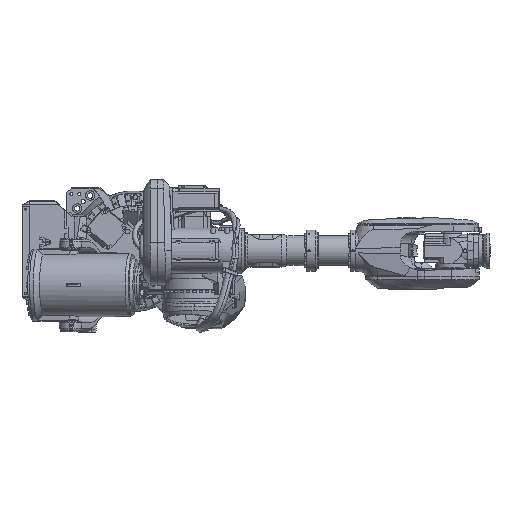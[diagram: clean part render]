
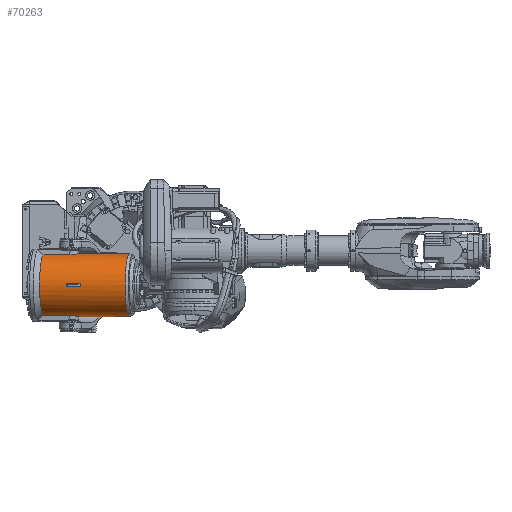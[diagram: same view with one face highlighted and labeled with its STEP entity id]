
A CAD part, top view. The second image highlights one B-rep face of the part: STEP entity #70263.
In plain terms, the highlighted cylindrical face has radius 179 mm (diameter 358 mm), a full revolution.
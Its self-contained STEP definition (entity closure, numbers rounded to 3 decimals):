
#3950=ELLIPSE('',#75685,206.691,179.);
#3951=ELLIPSE('',#75686,206.691,179.);
#5003=FACE_BOUND('',#12136,.T.);
#5004=FACE_BOUND('',#12137,.T.);
#7490=FACE_OUTER_BOUND('',#12135,.T.);
#12135=EDGE_LOOP('',(#56718,#56719,#56720,#56721,#56722,#56723,#56724,#56725));
#12136=EDGE_LOOP('',(#56726));
#12137=EDGE_LOOP('',(#56727,#56728,#56729,#56730));
#15765=B_SPLINE_CURVE_WITH_KNOTS('',3,(#161504,#161505,#161506,#161507,
#161508,#161509,#161510,#161511,#161512,#161513,#161514,#161515,#161516,
#161517,#161518,#161519,#161520,#161521,#161522,#161523),.UNSPECIFIED.,
 .F.,.F.,(4,2,2,2,2,2,2,2,2,4),(-14.029,-12.333,-10.755,
-9.049,-7.396,-5.743,-4.063,
-2.323,-1.159,0.),.UNSPECIFIED.);
#15766=B_SPLINE_CURVE_WITH_KNOTS('',3,(#161531,#161532,#161533,#161534,
#161535,#161536,#161537,#161538,#161539,#161540,#161541,#161542,#161543,
#161544,#161545,#161546,#161547,#161548,#161549,#161550,#161551,#161552),
 .UNSPECIFIED.,.F.,.F.,(4,2,2,2,2,2,2,2,2,2,4),(-8.293,-7.517,
-6.741,-6.213,-5.174,-4.156,
-3.14,-2.113,-1.148,-0.649,
0.),.UNSPECIFIED.);
#18874=LINE('',#161525,#25115);
#18875=LINE('',#161529,#25116);
#18876=LINE('',#161554,#25117);
#18877=LINE('',#161557,#25118);
#18878=LINE('',#161564,#25119);
#18879=LINE('',#161567,#25120);
#25115=VECTOR('',#87403,1000.);
#25116=VECTOR('',#87406,1000.);
#25117=VECTOR('',#87407,1000.);
#25118=VECTOR('',#87410,1000.);
#25119=VECTOR('',#87415,1000.);
#25120=VECTOR('',#87418,1000.);
#29608=CIRCLE('',#75682,179.);
#29609=CIRCLE('',#75683,179.);
#29610=CIRCLE('',#75684,179.);
#33836=VERTEX_POINT('',#161502);
#33837=VERTEX_POINT('',#161503);
#33838=VERTEX_POINT('',#161524);
#33839=VERTEX_POINT('',#161526);
#33840=VERTEX_POINT('',#161528);
#33841=VERTEX_POINT('',#161530);
#33842=VERTEX_POINT('',#161553);
#33843=VERTEX_POINT('',#161555);
#33844=VERTEX_POINT('',#161558);
#33845=VERTEX_POINT('',#161560);
#33846=VERTEX_POINT('',#161561);
#33847=VERTEX_POINT('',#161563);
#33848=VERTEX_POINT('',#161565);
#42179=EDGE_CURVE('',#33836,#33837,#15765,.T.);
#42180=EDGE_CURVE('',#33838,#33836,#18874,.T.);
#42181=EDGE_CURVE('',#33838,#33839,#29608,.T.);
#42182=EDGE_CURVE('',#33839,#33840,#18875,.T.);
#42183=EDGE_CURVE('',#33840,#33841,#15766,.T.);
#42184=EDGE_CURVE('',#33841,#33842,#18876,.T.);
#42185=EDGE_CURVE('',#33842,#33843,#29609,.T.);
#42186=EDGE_CURVE('',#33837,#33843,#18877,.T.);
#42187=EDGE_CURVE('',#33844,#33844,#29610,.T.);
#42188=EDGE_CURVE('',#33845,#33846,#3950,.T.);
#42189=EDGE_CURVE('',#33845,#33847,#18878,.T.);
#42190=EDGE_CURVE('',#33848,#33847,#3951,.T.);
#42191=EDGE_CURVE('',#33846,#33848,#18879,.T.);
#56718=ORIENTED_EDGE('',*,*,#42179,.F.);
#56719=ORIENTED_EDGE('',*,*,#42180,.F.);
#56720=ORIENTED_EDGE('',*,*,#42181,.T.);
#56721=ORIENTED_EDGE('',*,*,#42182,.T.);
#56722=ORIENTED_EDGE('',*,*,#42183,.T.);
#56723=ORIENTED_EDGE('',*,*,#42184,.T.);
#56724=ORIENTED_EDGE('',*,*,#42185,.T.);
#56725=ORIENTED_EDGE('',*,*,#42186,.F.);
#56726=ORIENTED_EDGE('',*,*,#42187,.F.);
#56727=ORIENTED_EDGE('',*,*,#42188,.F.);
#56728=ORIENTED_EDGE('',*,*,#42189,.T.);
#56729=ORIENTED_EDGE('',*,*,#42190,.F.);
#56730=ORIENTED_EDGE('',*,*,#42191,.F.);
#68008=CYLINDRICAL_SURFACE('',#75681,179.);
#70263=ADVANCED_FACE('',(#7490,#5003,#5004),#68008,.T.);
#75681=AXIS2_PLACEMENT_3D('',#161501,#87401,#87402);
#75682=AXIS2_PLACEMENT_3D('',#161527,#87404,#87405);
#75683=AXIS2_PLACEMENT_3D('',#161556,#87408,#87409);
#75684=AXIS2_PLACEMENT_3D('',#161559,#87411,#87412);
#75685=AXIS2_PLACEMENT_3D('',#161562,#87413,#87414);
#75686=AXIS2_PLACEMENT_3D('',#161566,#87416,#87417);
#87401=DIRECTION('center_axis',(0.99,0.,
0.144));
#87402=DIRECTION('ref_axis',(0.,1.,0.));
#87403=DIRECTION('',(0.99,0.,0.144));
#87404=DIRECTION('center_axis',(0.99,0.,
0.144));
#87405=DIRECTION('ref_axis',(0.,1.,0.));
#87406=DIRECTION('',(0.99,0.,0.144));
#87407=DIRECTION('',(-0.99,0.,-0.144));
#87408=DIRECTION('center_axis',(0.99,0.,
0.144));
#87409=DIRECTION('ref_axis',(0.,1.,0.));
#87410=DIRECTION('',(-0.99,0.,-0.144));
#87411=DIRECTION('center_axis',(0.99,0.,
0.144));
#87412=DIRECTION('ref_axis',(0.,1.,0.));
#87413=DIRECTION('center_axis',(-0.785,0.,
-0.62));
#87414=DIRECTION('ref_axis',(-0.62,0.,0.785));
#87415=DIRECTION('',(-0.99,0.,-0.144));
#87416=DIRECTION('center_axis',(0.929,0.,
-0.37));
#87417=DIRECTION('ref_axis',(0.37,0.,0.929));
#87418=DIRECTION('',(-0.99,0.,-0.144));
#161501=CARTESIAN_POINT('Origin',(-352.5,-194.,677.51));
#161502=CARTESIAN_POINT('',(-358.848,-20.485,721.02));
#161503=CARTESIAN_POINT('',(-346.152,-20.485,634.));
#161504=CARTESIAN_POINT('Ctrl Pts',(-358.848,-20.485,
721.02));
#161505=CARTESIAN_POINT('Ctrl Pts',(-353.966,-20.485,
721.732));
#161506=CARTESIAN_POINT('Ctrl Pts',(-348.713,-20.268,
721.674));
#161507=CARTESIAN_POINT('Ctrl Pts',(-338.119,-19.369,
719.376));
#161508=CARTESIAN_POINT('Ctrl Pts',(-333.258,-18.761,
717.369));
#161509=CARTESIAN_POINT('Ctrl Pts',(-324.137,-17.42,
711.537));
#161510=CARTESIAN_POINT('Ctrl Pts',(-319.991,-16.693,
707.598));
#161511=CARTESIAN_POINT('Ctrl Pts',(-313.535,-15.575,
698.506));
#161512=CARTESIAN_POINT('Ctrl Pts',(-311.208,-15.185,
693.453));
#161513=CARTESIAN_POINT('Ctrl Pts',(-308.55,-14.92,682.736));
#161514=CARTESIAN_POINT('Ctrl Pts',(-308.242,-15.047,
677.179));
#161515=CARTESIAN_POINT('Ctrl Pts',(-309.698,-15.766,
666.17));
#161516=CARTESIAN_POINT('Ctrl Pts',(-311.489,-16.356,
660.822));
#161517=CARTESIAN_POINT('Ctrl Pts',(-317.005,-17.712,650.976));
#161518=CARTESIAN_POINT('Ctrl Pts',(-320.769,-18.471,
646.566));
#161519=CARTESIAN_POINT('Ctrl Pts',(-328.27,-19.514,
640.629));
#161520=CARTESIAN_POINT('Ctrl Pts',(-331.579,-19.867,
638.653));
#161521=CARTESIAN_POINT('Ctrl Pts',(-338.618,-20.353,
635.615));
#161522=CARTESIAN_POINT('Ctrl Pts',(-342.33,-20.485,
634.558));
#161523=CARTESIAN_POINT('Ctrl Pts',(-346.152,-20.485,
634.));
#161524=CARTESIAN_POINT('',(-512.543,-20.485,698.596));
#161525=CARTESIAN_POINT('',(-358.848,-20.485,721.02));
#161526=CARTESIAN_POINT('',(-512.543,-367.515,698.596));
#161527=CARTESIAN_POINT('Origin',(-506.195,-194.,655.086));
#161528=CARTESIAN_POINT('',(-358.848,-367.515,721.02));
#161529=CARTESIAN_POINT('',(-512.543,-367.515,698.596));
#161530=CARTESIAN_POINT('',(-346.152,-367.515,634.));
#161531=CARTESIAN_POINT('Ctrl Pts',(-358.848,-367.515,
721.02));
#161532=CARTESIAN_POINT('Ctrl Pts',(-354.616,-367.515,
721.637));
#161533=CARTESIAN_POINT('Ctrl Pts',(-350.34,-367.677,
721.631));
#161534=CARTESIAN_POINT('Ctrl Pts',(-341.927,-368.267,
720.394));
#161535=CARTESIAN_POINT('Ctrl Pts',(-337.856,-368.69,
719.176));
#161536=CARTESIAN_POINT('Ctrl Pts',(-331.373,-369.514,
716.157));
#161537=CARTESIAN_POINT('Ctrl Pts',(-328.898,-369.871,
714.691));
#161538=CARTESIAN_POINT('Ctrl Pts',(-322.013,-370.936,
709.649));
#161539=CARTESIAN_POINT('Ctrl Pts',(-318.116,-371.636,
705.436));
#161540=CARTESIAN_POINT('Ctrl Pts',(-312.202,-372.65,
695.84));
#161541=CARTESIAN_POINT('Ctrl Pts',(-310.193,-372.959,
690.563));
#161542=CARTESIAN_POINT('Ctrl Pts',(-308.274,-373.033,
679.498));
#161543=CARTESIAN_POINT('Ctrl Pts',(-308.377,-372.799,
673.861));
#161544=CARTESIAN_POINT('Ctrl Pts',(-310.711,-371.897,
662.841));
#161545=CARTESIAN_POINT('Ctrl Pts',(-312.935,-371.236,
657.591));
#161546=CARTESIAN_POINT('Ctrl Pts',(-319.07,-369.875,
648.495));
#161547=CARTESIAN_POINT('Ctrl Pts',(-323.088,-369.125,
644.263));
#161548=CARTESIAN_POINT('Ctrl Pts',(-330.939,-368.21,
639.064));
#161549=CARTESIAN_POINT('Ctrl Pts',(-333.794,-367.956,
637.591));
#161550=CARTESIAN_POINT('Ctrl Pts',(-340.718,-367.555,
634.942));
#161551=CARTESIAN_POINT('Ctrl Pts',(-344.013,-367.515,
634.313));
#161552=CARTESIAN_POINT('Ctrl Pts',(-346.152,-367.515,
634.));
#161553=CARTESIAN_POINT('',(-499.848,-367.515,611.577));
#161554=CARTESIAN_POINT('',(-346.152,-367.515,634.));
#161555=CARTESIAN_POINT('',(-499.848,-20.485,611.577));
#161556=CARTESIAN_POINT('Origin',(-506.195,-194.,655.086));
#161557=CARTESIAN_POINT('',(-346.152,-20.485,634.));
#161558=CARTESIAN_POINT('',(-18.991,-15.,726.168));
#161559=CARTESIAN_POINT('Origin',(-18.991,-194.,726.168));
#161560=CARTESIAN_POINT('',(-300.886,-200.938,865.799));
#161561=CARTESIAN_POINT('',(-300.886,-187.062,865.799));
#161562=CARTESIAN_POINT('Origin',(-172.877,-194.,703.717));
#161563=CARTESIAN_POINT('',(-381.366,-200.938,854.058));
#161564=CARTESIAN_POINT('',(-378.323,-200.938,854.502));
#161565=CARTESIAN_POINT('',(-381.366,-187.062,854.058));
#161566=CARTESIAN_POINT('Origin',(-457.73,-194.,662.157));
#161567=CARTESIAN_POINT('',(-300.886,-187.062,865.799));
